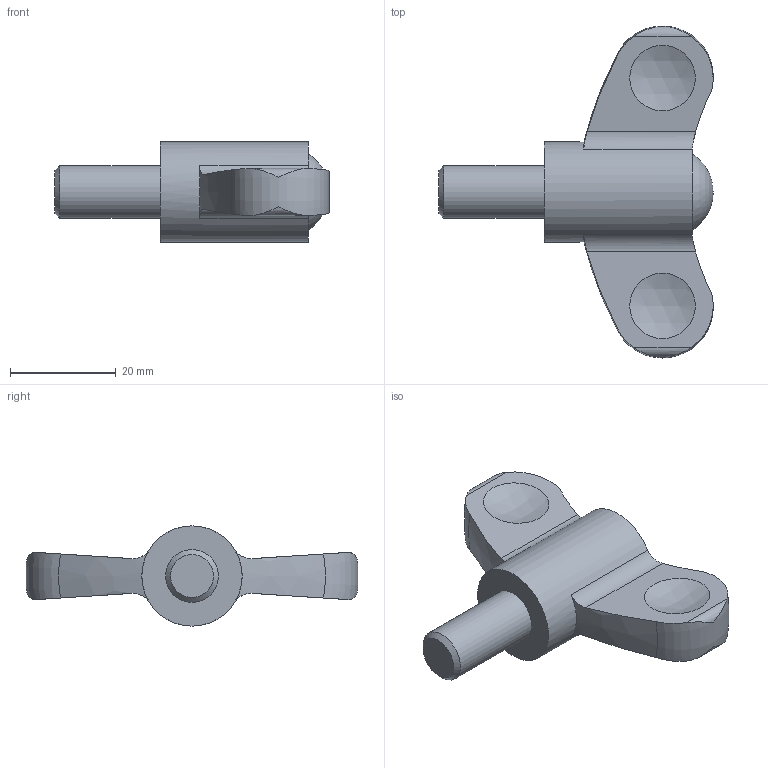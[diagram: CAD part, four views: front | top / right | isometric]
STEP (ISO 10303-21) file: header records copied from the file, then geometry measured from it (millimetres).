
FILE_DESCRIPTION( ( 'STEP AP203' ), '1' );
FILE_NAME( 'C:/Temp/Ganter_Step_05_03_2020/data/2_2/gn_633/Wing nut GN 633-63-M10-20-DOR.stp', '2020-03-05T12:21:11', ( 'License CC BY-ND 4.0' ), ( 'CADENAS' ), ' ', 'PARTsolutions', ' ' );
FILE_SCHEMA( ( 'CONFIG_CONTROL_DESIGN' ) );
Length unit declared in the file: millimetre
Products named in the file (1): _Wing nut GN 633-63-M10-20-DOR
Bounding box: 52 x 62.9 x 19 mm (x, y, z)
Volume: 15739.1 mm3; surface area: 5147.9 mm2
Topology: 1 solids, 1 shells, 29 faces, 75 edges, 52 vertices
Faces by surface type: cylinder 10, sphere 7, plane 6, bspline 3, torus 2, cone 1
Full cylindrical faces by diameter (mm): 10 x1, 19 x1
Entity records: 1209 total; most frequent: CARTESIAN_POINT 536, ORIENTED_EDGE 134, DIRECTION 112, EDGE_CURVE 67, AXIS2_PLACEMENT_3D 50, VERTEX_POINT 50, EDGE_LOOP 38, FACE_OUTER_BOUND 32
